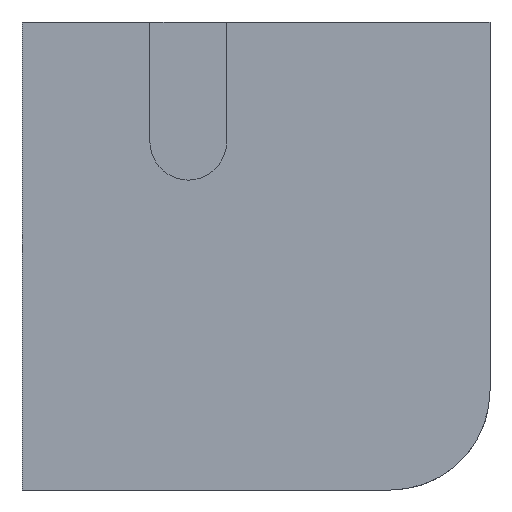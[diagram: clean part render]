
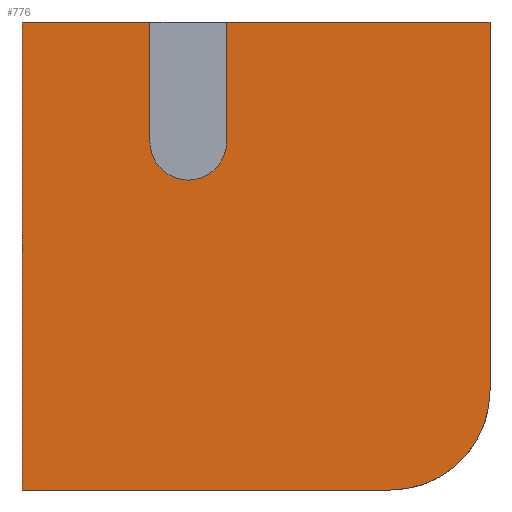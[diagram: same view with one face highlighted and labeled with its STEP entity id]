
A CAD part, left-side view. The second image highlights one B-rep face of the part: STEP entity #776.
In plain terms, the highlighted planar face has unit normal (-1, 0, 0).
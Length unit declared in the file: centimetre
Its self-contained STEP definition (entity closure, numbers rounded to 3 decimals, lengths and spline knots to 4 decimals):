
#14 = ORIENTED_EDGE ( 'NONE', *, *, #1016, .T. ) ;
#45 = VERTEX_POINT ( 'NONE', #1150 ) ;
#49 = CARTESIAN_POINT ( 'NONE',  ( 0., 1000., 1000. ) ) ;
#52 = ORIENTED_EDGE ( 'NONE', *, *, #698, .F. ) ;
#76 = AXIS2_PLACEMENT_3D ( 'NONE', #965, #677, #1250 ) ;
#86 = LINE ( 'NONE', #385, #541 ) ;
#96 = CARTESIAN_POINT ( 'NONE',  ( 0., 213.3336, 0. ) ) ;
#102 = CARTESIAN_POINT ( 'NONE',  ( 0., 0., 213.3336 ) ) ;
#105 = DIRECTION ( 'NONE',  ( 0., 0., -1. ) ) ;
#120 = ORIENTED_EDGE ( 'NONE', *, *, #961, .F. ) ;
#142 = EDGE_CURVE ( 'NONE', #227, #1165, #1089, .T. ) ;
#145 = VERTEX_POINT ( 'NONE', #217 ) ;
#193 = VECTOR ( 'NONE', #1073, 100. ) ;
#204 = VECTOR ( 'NONE', #1074, 100. ) ;
#217 = CARTESIAN_POINT ( 'NONE',  ( 0., 562.7799, 1000. ) ) ;
#221 = VERTEX_POINT ( 'NONE', #235 ) ;
#227 = VERTEX_POINT ( 'NONE', #516 ) ;
#234 = VECTOR ( 'NONE', #1129, 100. ) ;
#235 = CARTESIAN_POINT ( 'NONE',  ( 0., 1000., 0. ) ) ;
#244 = ORIENTED_EDGE ( 'NONE', *, *, #369, .F. ) ;
#306 = PLANE ( 'NONE',  #348 ) ;
#319 = LINE ( 'NONE', #587, #204 ) ;
#348 = AXIS2_PLACEMENT_3D ( 'NONE', #1015, #690, #105 ) ;
#369 = EDGE_CURVE ( 'NONE', #45, #145, #634, .T. ) ;
#382 = ORIENTED_EDGE ( 'NONE', *, *, #142, .F. ) ;
#385 = CARTESIAN_POINT ( 'NONE',  ( 0., 1000., 1000. ) ) ;
#390 = CARTESIAN_POINT ( 'NONE',  ( 0., 0., 1000. ) ) ;
#391 = VECTOR ( 'NONE', #1124, 100. ) ;
#400 = CARTESIAN_POINT ( 'NONE',  ( 0., 726.7733, 1000. ) ) ;
#440 = CARTESIAN_POINT ( 'NONE',  ( 0., 1000., 0. ) ) ;
#445 = VERTEX_POINT ( 'NONE', #390 ) ;
#446 = CARTESIAN_POINT ( 'NONE',  ( 0., 0., 1000. ) ) ;
#449 = DIRECTION ( 'NONE',  ( 0., 0., 1. ) ) ;
#507 = VERTEX_POINT ( 'NONE', #673 ) ;
#516 = CARTESIAN_POINT ( 'NONE',  ( 0., 726.7733, 1000. ) ) ;
#519 = VECTOR ( 'NONE', #449, 100. ) ;
#530 = EDGE_CURVE ( 'NONE', #507, #221, #86, .T. ) ;
#541 = VECTOR ( 'NONE', #971, 100. ) ;
#587 = CARTESIAN_POINT ( 'NONE',  ( 0., 1000., 1000. ) ) ;
#634 = LINE ( 'NONE', #641, #519 ) ;
#639 = DIRECTION ( 'NONE',  ( 0., -1., 0. ) ) ;
#641 = CARTESIAN_POINT ( 'NONE',  ( 0., 562.7799, 744.1282 ) ) ;
#644 = EDGE_LOOP ( 'NONE', ( #52, #382, #1128, #1185, #1058, #14, #120, #941, #244 ) ) ;
#657 = LINE ( 'NONE', #49, #1233 ) ;
#658 = AXIS2_PLACEMENT_3D ( 'NONE', #735, #839, #1048 ) ;
#673 = CARTESIAN_POINT ( 'NONE',  ( 0., 1000., 1000. ) ) ;
#677 = DIRECTION ( 'NONE',  ( -1., 0., 0. ) ) ;
#690 = DIRECTION ( 'NONE',  ( 1., 0., 0. ) ) ;
#693 = CARTESIAN_POINT ( 'NONE',  ( 0., 726.7733, 744.1282 ) ) ;
#698 = EDGE_CURVE ( 'NONE', #1165, #45, #1258, .T. ) ;
#735 = CARTESIAN_POINT ( 'NONE',  ( 0., 213.3336, 213.3336 ) ) ;
#776 = ADVANCED_FACE ( 'NONE', ( #792 ), #306, .F. ) ;
#792 = FACE_OUTER_BOUND ( 'NONE', #644, .T. ) ;
#839 = DIRECTION ( 'NONE',  ( -1., 0., 0. ) ) ;
#941 = ORIENTED_EDGE ( 'NONE', *, *, #1006, .F. ) ;
#944 = CIRCLE ( 'NONE', #658, 213.3336 ) ;
#961 = EDGE_CURVE ( 'NONE', #445, #1206, #1227, .T. ) ;
#965 = CARTESIAN_POINT ( 'NONE',  ( 0., 644.7766, 744.1282 ) ) ;
#971 = DIRECTION ( 'NONE',  ( 0., 0., -1. ) ) ;
#1006 = EDGE_CURVE ( 'NONE', #145, #445, #657, .T. ) ;
#1015 = CARTESIAN_POINT ( 'NONE',  ( 0., 1000., 1000. ) ) ;
#1016 = EDGE_CURVE ( 'NONE', #1127, #1206, #944, .T. ) ;
#1024 = EDGE_CURVE ( 'NONE', #221, #1127, #1229, .T. ) ;
#1048 = DIRECTION ( 'NONE',  ( 0., 0., -1. ) ) ;
#1058 = ORIENTED_EDGE ( 'NONE', *, *, #1024, .T. ) ;
#1073 = DIRECTION ( 'NONE',  ( 0., 0., -1. ) ) ;
#1074 = DIRECTION ( 'NONE',  ( 0., -1., 0. ) ) ;
#1089 = LINE ( 'NONE', #400, #193 ) ;
#1124 = DIRECTION ( 'NONE',  ( 0., -1., 0. ) ) ;
#1127 = VERTEX_POINT ( 'NONE', #96 ) ;
#1128 = ORIENTED_EDGE ( 'NONE', *, *, #1211, .F. ) ;
#1129 = DIRECTION ( 'NONE',  ( 0., 0., -1. ) ) ;
#1150 = CARTESIAN_POINT ( 'NONE',  ( 0., 562.7799, 744.1282 ) ) ;
#1165 = VERTEX_POINT ( 'NONE', #693 ) ;
#1185 = ORIENTED_EDGE ( 'NONE', *, *, #530, .T. ) ;
#1206 = VERTEX_POINT ( 'NONE', #102 ) ;
#1211 = EDGE_CURVE ( 'NONE', #507, #227, #319, .T. ) ;
#1227 = LINE ( 'NONE', #446, #234 ) ;
#1229 = LINE ( 'NONE', #440, #391 ) ;
#1233 = VECTOR ( 'NONE', #639, 100. ) ;
#1250 = DIRECTION ( 'NONE',  ( 0., 0., 1. ) ) ;
#1258 = CIRCLE ( 'NONE', #76, 81.9967 ) ;
